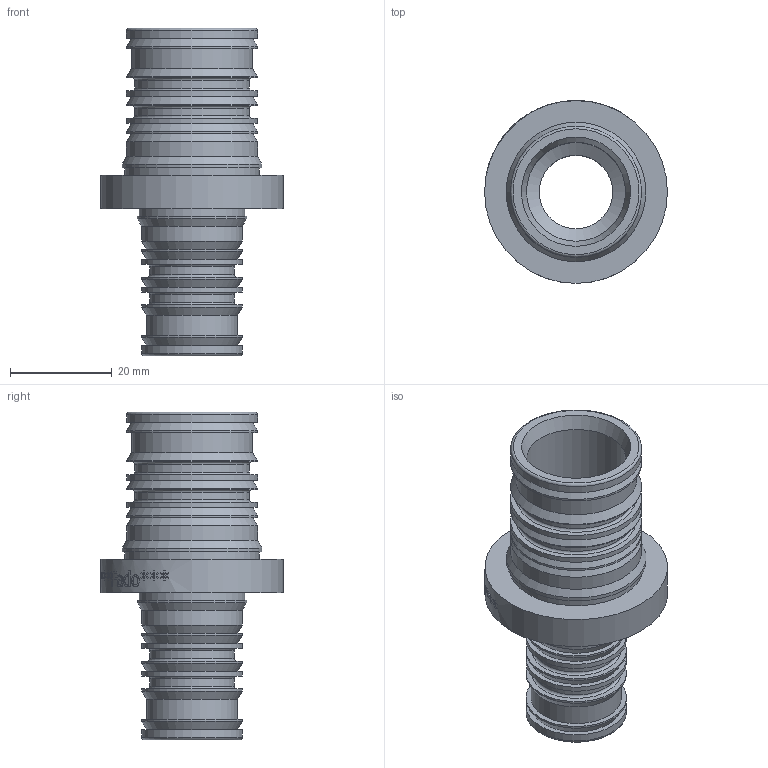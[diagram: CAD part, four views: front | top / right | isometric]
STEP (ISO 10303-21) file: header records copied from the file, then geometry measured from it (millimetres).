
FILE_DESCRIPTION(/* description */ (''),/* implementation_level */ '2;1');
FILE_NAME(/* name */ 'C:\Users\Doom\Desktop\Фадотех\Пресс\HDM08 32x26 Coupler 31.03.2020\HDM08 32x26 Coupler 31.03.2020_1.stp',/* time_stamp */ '2022-08-11T13:06:10+03:00',/* author */ ('Doom'),/* organization */ (''),/* preprocessor_version */ 'ST-DEVELOPER v18',/* originating_system */ 'Autodesk Inventor 2020',/* authorisation */ '');
FILE_SCHEMA (('AUTOMOTIVE_DESIGN { 1 0 10303 214 3 1 1 }'));
Length unit declared in the file: millimetre
Products named in the file (1): 16 Model 18.12.2019
Bounding box: 36 x 36.01 x 64.5 mm (x, y, z)
Volume: 13723.4 mm3; surface area: 11365.5 mm2
Topology: 1 solids, 1 shells, 334 faces, 935 edges, 642 vertices
Faces by surface type: bspline 184, plane 77, cylinder 47, cone 16, torus 10
Full cylindrical faces by diameter (mm): 14.5 x1, 16.6 x2, 17.8 x1, 19.5 x1, 19.8 x8, 20.8 x1, 21.5 x1, 22.6 x2, 23.8 x1, 25.8 x8, 26.5 x1, 27.5 x1, 36 x1
Entity records: 13889 total; most frequent: CARTESIAN_POINT 6196, ORIENTED_EDGE 1870, DIRECTION 1115, EDGE_CURVE 935, VERTEX_POINT 642, AXIS2_PLACEMENT_3D 397, EDGE_LOOP 375, B_SPLINE_CURVE_WITH_KNOTS 368
